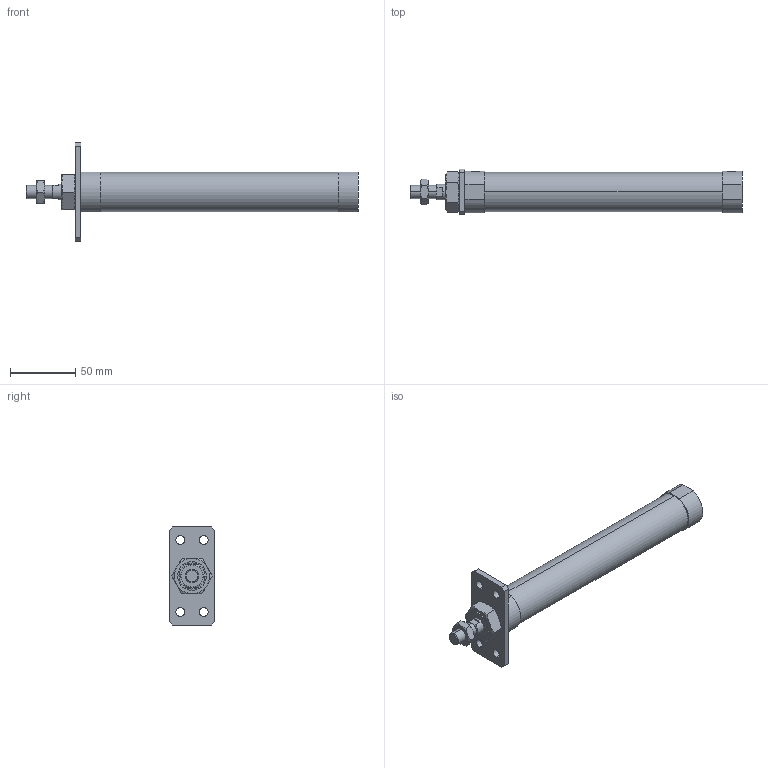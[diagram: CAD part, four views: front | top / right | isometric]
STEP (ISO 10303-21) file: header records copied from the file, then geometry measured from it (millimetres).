
FILE_DESCRIPTION (( 'STEP AP203' ), '1' );
FILE_NAME ('JGND2-25-150-A.STEP', '2016-08-04T02:42:11', ( '' ), ( '' ), 'SwSTEP 2.0', 'SolidWorks 2014', '' );
FILE_SCHEMA (( 'CONFIG_CONTROL_DESIGN' ));
Length unit declared in the file: millimetre
Products named in the file (5): J#2-25-150(P); J#2-25-A; JGND2-25-150-A
Assembly tree (4 placements, depth 2):
  JGND2-25-150-A
    J#2-25-150(P)
    (unnamed)
    (unnamed)
    J#2-25-A
Bounding box: 254 x 35 x 75 mm (x, y, z)
Volume: 171141.7 mm3; surface area: 33835.5 mm2
Topology: 4 solids, 4 shells, 109 faces, 252 edges, 152 vertices
Faces by surface type: plane 45, cylinder 32, torus 24, cone 8
Entity records: 3913 total; most frequent: CARTESIAN_POINT 956, DIRECTION 516, ORIENTED_EDGE 496, EDGE_CURVE 248, AXIS2_PLACEMENT_3D 208, VERTEX_POINT 152, EDGE_LOOP 128, FACE_OUTER_BOUND 109
